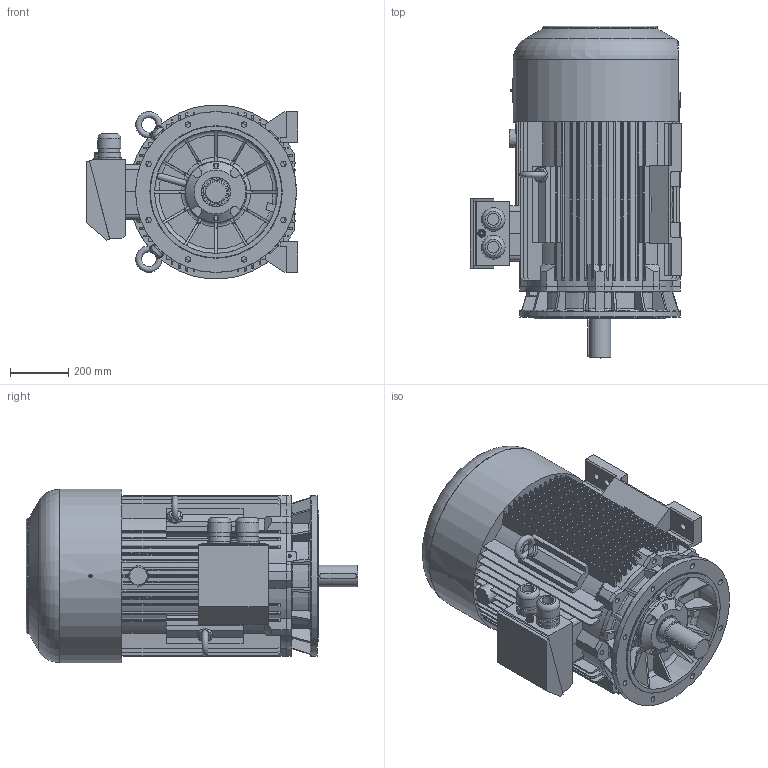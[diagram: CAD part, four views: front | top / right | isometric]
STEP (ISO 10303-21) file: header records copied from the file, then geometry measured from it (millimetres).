
FILE_DESCRIPTION(/* description */ ('Unknown'),/* implementation_level */ '2;1');
FILE_NAME(/* name */ '3SIEL280S4_8, M4_8',/* time_stamp */ '2021-04-12T13:26:02+02:00',/* author */ ('Unknown'),/* organization */ ('Unknown'),/* preprocessor_version */ 'ST-DEVELOPER v16.7',/* originating_system */ 'DEX',/* authorisation */ $);
FILE_SCHEMA (('AUTOMOTIVE_DESIGN {1 0 10303 214 3 1 1}'));
Length unit declared in the file: millimetre
Products named in the file (1): 2SIEL280 M_S4_6
Bounding box: 724.3 x 1134.98 x 594.39 mm (x, y, z)
Volume: 228625342.5 mm3; surface area: 5561279 mm2
Topology: 4 solids, 5 shells, 1128 faces, 3183 edges, 2106 vertices
Faces by surface type: plane 674, cylinder 269, torus 92, cone 72, bspline 21
Full cylindrical faces by diameter (mm): 1.6 x2, 5 x4, 6 x2, 8.36 x1, 8.4 x1, 8.5 x1, 8.917 x1, 10 x4, 10.106 x2, 11.083 x1, 18 x8, 19 x9, 20.752 x4, 21 x1, 23 x1, 24 x6, 27 x1, 40 x2, 50 x2, 71.32 x2, 75 x1, 78.781 x2, 80.024 x2, 81.268 x2, 89.1 x1, 98.8 x1, 100 x1, 160 x1, 208 x1, 210 x1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
Entity records: 45547 total; most frequent: CARTESIAN_POINT 9300, ORIENTED_EDGE 6034, DIRECTION 5631, EDGE_CURVE 3017, VERTEX_POINT 2051, AXIS2_PLACEMENT_3D 1950, LINE 1731, VECTOR 1731
